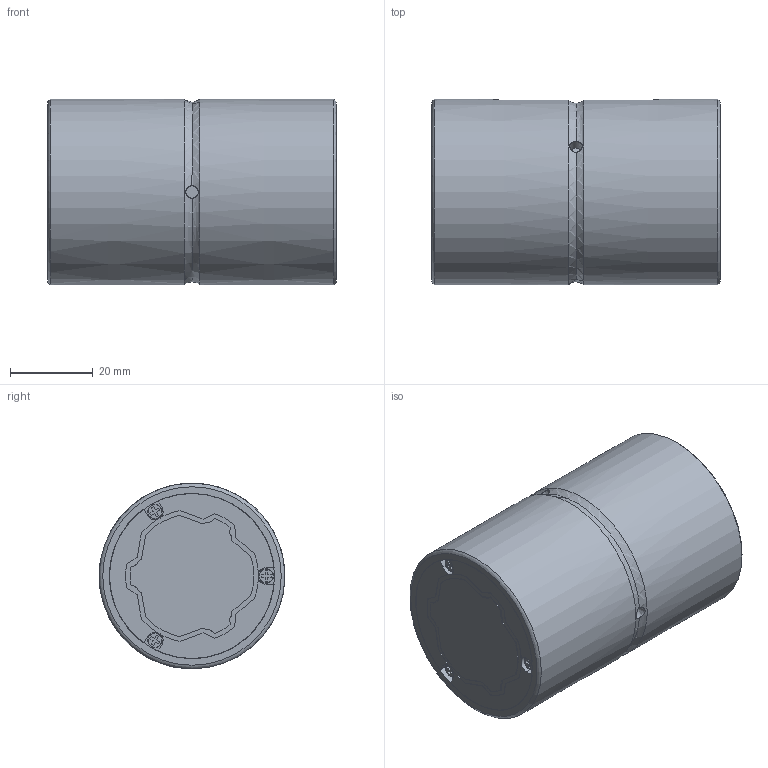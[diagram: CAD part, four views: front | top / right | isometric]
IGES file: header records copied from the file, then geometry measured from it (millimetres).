
Start section: Data from Parasolid IGES Translator 26.0.171, Copyright(c) 2006 Siemens PLM Software. All Rights Reserved.
Global section: file name: SLS30170(00).igs; native system: By Siemens PLM Incorporated; preprocessor: XPlus GENERIC/IGES 26.0.171; author: Noname; organization: Noname; date: 20240523.114638; units: millimetre
Bounding box: 70 x 45 x 45 mm (x, y, z)
Surface area: 27346.1 mm2 (no closed solid volume)
Topology: 0 solids, 0 shells, 299 faces, 1658 edges, 1626 vertices
Faces by surface type: extrusion 180, revolution 119
